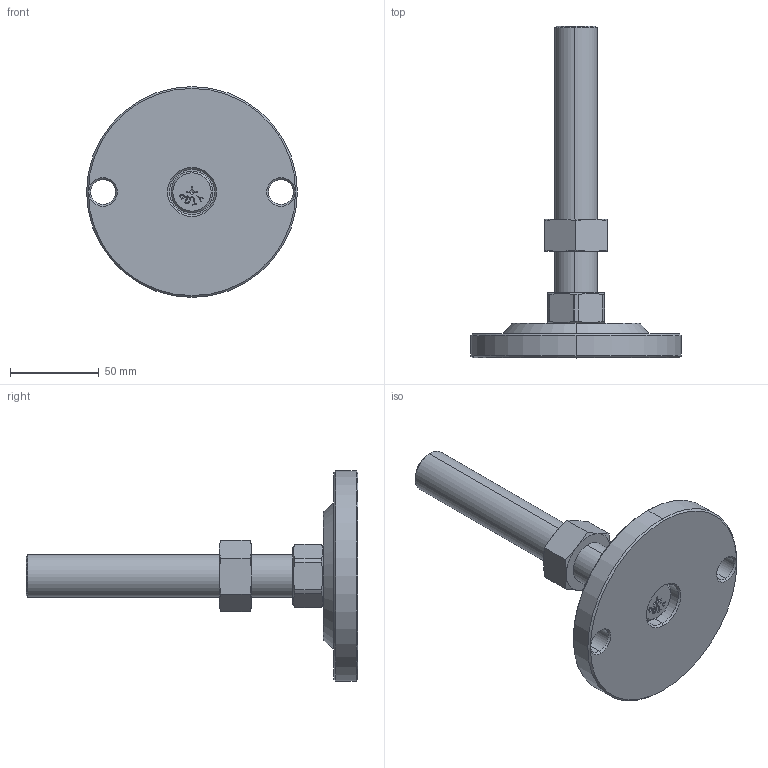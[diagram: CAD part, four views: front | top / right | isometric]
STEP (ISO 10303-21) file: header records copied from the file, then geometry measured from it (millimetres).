
FILE_DESCRIPTION (( 'STEP AP203' ), '1' );
FILE_NAME ('KL-120-24150-P.STEP', '2020-09-10T02:37:20', ( '' ), ( '' ), 'SwSTEP 2.0', 'SolidWorks 2016', '' );
FILE_SCHEMA (( 'CONFIG_CONTROL_DESIGN' ));
Length unit declared in the file: millimetre
Products named in the file (5): KL-120-24150-P; 螺丝平底十字带商标M10系列_M10X14; 脚垫调节六角螺母M24; 眻芛蹟邡M24炵蹈_M24X150; KL-120-0.1 KL120菁釱
Assembly tree (4 placements, depth 2):
  KL-120-24150-P
    KL-120-0.1 KL120菁釱
    眻芛蹟邡M24炵蹈_M24X150
    脚垫调节六角螺母M24
    螺丝平底十字带商标M10系列_M10X14
Bounding box: 118.5 x 186.5 x 118.5 mm (x, y, z)
Volume: 263974.2 mm3; surface area: 50294.9 mm2
Topology: 4 solids, 4 shells, 210 faces, 511 edges, 324 vertices
Faces by surface type: plane 101, cone 52, cylinder 33, bspline 24
Entity records: 8380 total; most frequent: CARTESIAN_POINT 3120, ORIENTED_EDGE 1014, DIRECTION 903, EDGE_CURVE 507, VERTEX_POINT 324, AXIS2_PLACEMENT_3D 307, LINE 289, VECTOR 289
